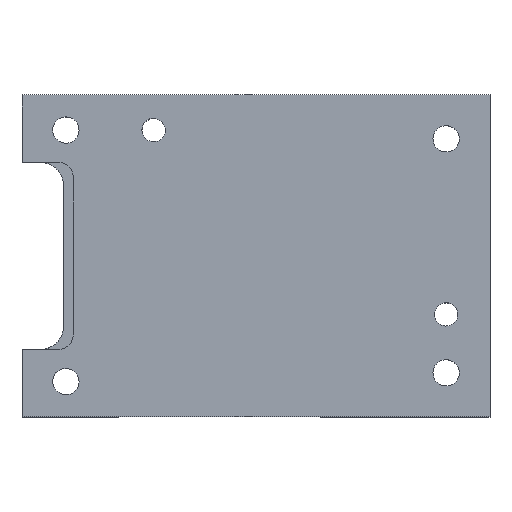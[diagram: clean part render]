
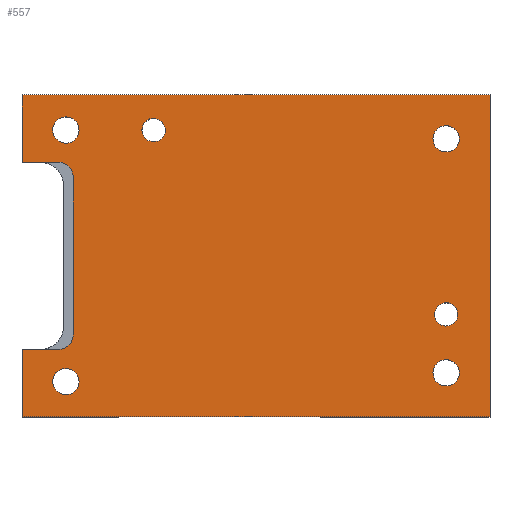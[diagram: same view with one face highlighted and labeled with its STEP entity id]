
A CAD part, top view. The second image highlights one B-rep face of the part: STEP entity #557.
In plain terms, the highlighted planar face has unit normal (0, 0, 1).
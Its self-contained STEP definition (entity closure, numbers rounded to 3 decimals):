
#47=AXIS2_PLACEMENT_3D('Circle Axis2P3D',#45,#46,$) ;
#365=AXIS2_PLACEMENT_3D('Circle Axis2P3D',#363,#364,$) ;
#379=AXIS2_PLACEMENT_3D('Plane Axis2P3D',#376,#377,#378) ;
#427=AXIS2_PLACEMENT_3D('Circle Axis2P3D',#425,#426,$) ;
#441=AXIS2_PLACEMENT_3D('Circle Axis2P3D',#439,#440,$) ;
#465=AXIS2_PLACEMENT_3D('Circle Axis2P3D',#463,#464,$) ;
#474=AXIS2_PLACEMENT_3D('Circle Axis2P3D',#472,#473,$) ;
#487=AXIS2_PLACEMENT_3D('Circle Axis2P3D',#485,#486,$) ;
#496=AXIS2_PLACEMENT_3D('Circle Axis2P3D',#494,#495,$) ;
#505=AXIS2_PLACEMENT_3D('Circle Axis2P3D',#503,#504,$) ;
#514=AXIS2_PLACEMENT_3D('Circle Axis2P3D',#512,#513,$) ;
#523=AXIS2_PLACEMENT_3D('Circle Axis2P3D',#521,#522,$) ;
#532=AXIS2_PLACEMENT_3D('Circle Axis2P3D',#530,#531,$) ;
#541=AXIS2_PLACEMENT_3D('Circle Axis2P3D',#539,#540,$) ;
#550=AXIS2_PLACEMENT_3D('Circle Axis2P3D',#548,#549,$) ;
#40=CARTESIAN_POINT('Vertex',(141.49,-21.918,45.)) ;
#45=CARTESIAN_POINT('Axis2P3D Location',(145.,-20.,45.)) ;
#49=CARTESIAN_POINT('Vertex',(148.51,-18.082,45.)) ;
#363=CARTESIAN_POINT('Axis2P3D Location',(145.,-20.,45.)) ;
#376=CARTESIAN_POINT('Axis2P3D Location',(0.,0.,45.)) ;
#381=CARTESIAN_POINT('Line Origine',(0.,-43.5,45.)) ;
#385=CARTESIAN_POINT('Vertex',(0.,-32.,45.)) ;
#387=CARTESIAN_POINT('Vertex',(0.,-55.,45.)) ;
#390=CARTESIAN_POINT('Line Origine',(80.,-55.,45.)) ;
#394=CARTESIAN_POINT('Vertex',(160.,-55.,45.)) ;
#397=CARTESIAN_POINT('Line Origine',(160.,0.,45.)) ;
#401=CARTESIAN_POINT('Vertex',(160.,55.,45.)) ;
#404=CARTESIAN_POINT('Line Origine',(80.,55.,45.)) ;
#408=CARTESIAN_POINT('Vertex',(0.,55.,45.)) ;
#411=CARTESIAN_POINT('Line Origine',(0.,43.5,45.)) ;
#415=CARTESIAN_POINT('Vertex',(0.,32.,45.)) ;
#418=CARTESIAN_POINT('Line Origine',(6.25,32.,45.)) ;
#422=CARTESIAN_POINT('Vertex',(12.5,32.,45.)) ;
#425=CARTESIAN_POINT('Axis2P3D Location',(12.5,27.,45.)) ;
#429=CARTESIAN_POINT('Vertex',(17.5,27.,45.)) ;
#432=CARTESIAN_POINT('Line Origine',(17.5,0.,45.)) ;
#436=CARTESIAN_POINT('Vertex',(17.5,-27.,45.)) ;
#439=CARTESIAN_POINT('Axis2P3D Location',(12.5,-27.,45.)) ;
#443=CARTESIAN_POINT('Vertex',(12.5,-32.,45.)) ;
#446=CARTESIAN_POINT('Line Origine',(6.25,-32.,45.)) ;
#463=CARTESIAN_POINT('Axis2P3D Location',(45.,43.,45.)) ;
#467=CARTESIAN_POINT('Vertex',(41.49,41.082,45.)) ;
#469=CARTESIAN_POINT('Vertex',(48.51,44.918,45.)) ;
#472=CARTESIAN_POINT('Axis2P3D Location',(45.,43.,45.)) ;
#485=CARTESIAN_POINT('Axis2P3D Location',(15.,43.,45.)) ;
#489=CARTESIAN_POINT('Vertex',(18.949,45.157,45.)) ;
#491=CARTESIAN_POINT('Vertex',(11.051,40.843,45.)) ;
#494=CARTESIAN_POINT('Axis2P3D Location',(15.,43.,45.)) ;
#503=CARTESIAN_POINT('Axis2P3D Location',(15.,-43.,45.)) ;
#507=CARTESIAN_POINT('Vertex',(11.051,-45.157,45.)) ;
#509=CARTESIAN_POINT('Vertex',(18.949,-40.843,45.)) ;
#512=CARTESIAN_POINT('Axis2P3D Location',(15.,-43.,45.)) ;
#521=CARTESIAN_POINT('Axis2P3D Location',(145.,-40.,45.)) ;
#525=CARTESIAN_POINT('Vertex',(141.051,-42.157,45.)) ;
#527=CARTESIAN_POINT('Vertex',(148.949,-37.843,45.)) ;
#530=CARTESIAN_POINT('Axis2P3D Location',(145.,-40.,45.)) ;
#539=CARTESIAN_POINT('Axis2P3D Location',(145.,40.,45.)) ;
#543=CARTESIAN_POINT('Vertex',(141.051,37.843,45.)) ;
#545=CARTESIAN_POINT('Vertex',(148.949,42.157,45.)) ;
#548=CARTESIAN_POINT('Axis2P3D Location',(145.,40.,45.)) ;
#46=DIRECTION('Axis2P3D Direction',(0.,-0.,1.)) ;
#364=DIRECTION('Axis2P3D Direction',(0.,-0.,1.)) ;
#377=DIRECTION('Axis2P3D Direction',(0.,0.,1.)) ;
#378=DIRECTION('Axis2P3D XDirection',(1.,0.,0.)) ;
#382=DIRECTION('Vector Direction',(0.,-1.,0.)) ;
#391=DIRECTION('Vector Direction',(1.,0.,0.)) ;
#398=DIRECTION('Vector Direction',(0.,1.,0.)) ;
#405=DIRECTION('Vector Direction',(-1.,0.,0.)) ;
#412=DIRECTION('Vector Direction',(0.,-1.,0.)) ;
#419=DIRECTION('Vector Direction',(1.,0.,0.)) ;
#426=DIRECTION('Axis2P3D Direction',(0.,0.,1.)) ;
#433=DIRECTION('Vector Direction',(0.,-1.,0.)) ;
#440=DIRECTION('Axis2P3D Direction',(0.,0.,1.)) ;
#447=DIRECTION('Vector Direction',(-1.,0.,0.)) ;
#464=DIRECTION('Axis2P3D Direction',(0.,0.,1.)) ;
#473=DIRECTION('Axis2P3D Direction',(0.,0.,1.)) ;
#486=DIRECTION('Axis2P3D Direction',(0.,0.,1.)) ;
#495=DIRECTION('Axis2P3D Direction',(0.,0.,1.)) ;
#504=DIRECTION('Axis2P3D Direction',(0.,0.,1.)) ;
#513=DIRECTION('Axis2P3D Direction',(0.,0.,1.)) ;
#522=DIRECTION('Axis2P3D Direction',(0.,0.,1.)) ;
#531=DIRECTION('Axis2P3D Direction',(0.,0.,1.)) ;
#540=DIRECTION('Axis2P3D Direction',(0.,0.,1.)) ;
#549=DIRECTION('Axis2P3D Direction',(0.,0.,1.)) ;
#383=VECTOR('Line Direction',#382,1.) ;
#392=VECTOR('Line Direction',#391,1.) ;
#399=VECTOR('Line Direction',#398,1.) ;
#406=VECTOR('Line Direction',#405,1.) ;
#413=VECTOR('Line Direction',#412,1.) ;
#420=VECTOR('Line Direction',#419,1.) ;
#434=VECTOR('Line Direction',#433,1.) ;
#448=VECTOR('Line Direction',#447,1.) ;
#452=ORIENTED_EDGE('',*,*,#389,.T.) ;
#453=ORIENTED_EDGE('',*,*,#396,.T.) ;
#454=ORIENTED_EDGE('',*,*,#403,.T.) ;
#455=ORIENTED_EDGE('',*,*,#410,.T.) ;
#456=ORIENTED_EDGE('',*,*,#417,.T.) ;
#457=ORIENTED_EDGE('',*,*,#424,.F.) ;
#458=ORIENTED_EDGE('',*,*,#431,.F.) ;
#459=ORIENTED_EDGE('',*,*,#438,.F.) ;
#460=ORIENTED_EDGE('',*,*,#445,.F.) ;
#461=ORIENTED_EDGE('',*,*,#450,.F.) ;
#478=ORIENTED_EDGE('',*,*,#471,.F.) ;
#479=ORIENTED_EDGE('',*,*,#476,.F.) ;
#482=ORIENTED_EDGE('',*,*,#367,.F.) ;
#483=ORIENTED_EDGE('',*,*,#51,.F.) ;
#500=ORIENTED_EDGE('',*,*,#493,.F.) ;
#501=ORIENTED_EDGE('',*,*,#498,.F.) ;
#518=ORIENTED_EDGE('',*,*,#511,.F.) ;
#519=ORIENTED_EDGE('',*,*,#516,.F.) ;
#536=ORIENTED_EDGE('',*,*,#529,.F.) ;
#537=ORIENTED_EDGE('',*,*,#534,.F.) ;
#554=ORIENTED_EDGE('',*,*,#547,.F.) ;
#555=ORIENTED_EDGE('',*,*,#552,.F.) ;
#480=FACE_BOUND('',#477,.T.) ;
#484=FACE_BOUND('',#481,.T.) ;
#502=FACE_BOUND('',#499,.T.) ;
#520=FACE_BOUND('',#517,.T.) ;
#538=FACE_BOUND('',#535,.T.) ;
#556=FACE_BOUND('',#553,.T.) ;
#557=ADVANCED_FACE('Body.4',(#462,#480,#484,#502,#520,#538,#556),#380,.T.) ;
#48=CIRCLE('generated circle',#47,4.) ;
#366=CIRCLE('generated circle',#365,4.) ;
#428=CIRCLE('generated circle',#427,5.) ;
#442=CIRCLE('generated circle',#441,5.) ;
#466=CIRCLE('generated circle',#465,4.) ;
#475=CIRCLE('generated circle',#474,4.) ;
#488=CIRCLE('generated circle',#487,4.5) ;
#497=CIRCLE('generated circle',#496,4.5) ;
#506=CIRCLE('generated circle',#505,4.5) ;
#515=CIRCLE('generated circle',#514,4.5) ;
#524=CIRCLE('generated circle',#523,4.5) ;
#533=CIRCLE('generated circle',#532,4.5) ;
#542=CIRCLE('generated circle',#541,4.5) ;
#551=CIRCLE('generated circle',#550,4.5) ;
#51=EDGE_CURVE('',#41,#50,#48,.T.) ;
#367=EDGE_CURVE('',#50,#41,#366,.T.) ;
#389=EDGE_CURVE('',#386,#388,#384,.T.) ;
#396=EDGE_CURVE('',#388,#395,#393,.T.) ;
#403=EDGE_CURVE('',#395,#402,#400,.T.) ;
#410=EDGE_CURVE('',#402,#409,#407,.T.) ;
#417=EDGE_CURVE('',#409,#416,#414,.T.) ;
#424=EDGE_CURVE('',#423,#416,#421,.F.) ;
#431=EDGE_CURVE('',#430,#423,#428,.T.) ;
#438=EDGE_CURVE('',#437,#430,#435,.F.) ;
#445=EDGE_CURVE('',#444,#437,#442,.T.) ;
#450=EDGE_CURVE('',#386,#444,#449,.F.) ;
#471=EDGE_CURVE('',#468,#470,#466,.T.) ;
#476=EDGE_CURVE('',#470,#468,#475,.T.) ;
#493=EDGE_CURVE('',#490,#492,#488,.T.) ;
#498=EDGE_CURVE('',#492,#490,#497,.T.) ;
#511=EDGE_CURVE('',#508,#510,#506,.T.) ;
#516=EDGE_CURVE('',#510,#508,#515,.T.) ;
#529=EDGE_CURVE('',#526,#528,#524,.T.) ;
#534=EDGE_CURVE('',#528,#526,#533,.T.) ;
#547=EDGE_CURVE('',#544,#546,#542,.T.) ;
#552=EDGE_CURVE('',#546,#544,#551,.T.) ;
#451=EDGE_LOOP('',(#452,#453,#454,#455,#456,#457,#458,#459,#460,#461)) ;
#477=EDGE_LOOP('',(#478,#479)) ;
#481=EDGE_LOOP('',(#482,#483)) ;
#499=EDGE_LOOP('',(#500,#501)) ;
#517=EDGE_LOOP('',(#518,#519)) ;
#535=EDGE_LOOP('',(#536,#537)) ;
#553=EDGE_LOOP('',(#554,#555)) ;
#462=FACE_OUTER_BOUND('',#451,.T.) ;
#384=LINE('Line',#381,#383) ;
#393=LINE('Line',#390,#392) ;
#400=LINE('Line',#397,#399) ;
#407=LINE('Line',#404,#406) ;
#414=LINE('Line',#411,#413) ;
#421=LINE('Line',#418,#420) ;
#435=LINE('Line',#432,#434) ;
#449=LINE('Line',#446,#448) ;
#380=PLANE('',#379) ;
#41=VERTEX_POINT('',#40) ;
#50=VERTEX_POINT('',#49) ;
#386=VERTEX_POINT('',#385) ;
#388=VERTEX_POINT('',#387) ;
#395=VERTEX_POINT('',#394) ;
#402=VERTEX_POINT('',#401) ;
#409=VERTEX_POINT('',#408) ;
#416=VERTEX_POINT('',#415) ;
#423=VERTEX_POINT('',#422) ;
#430=VERTEX_POINT('',#429) ;
#437=VERTEX_POINT('',#436) ;
#444=VERTEX_POINT('',#443) ;
#468=VERTEX_POINT('',#467) ;
#470=VERTEX_POINT('',#469) ;
#490=VERTEX_POINT('',#489) ;
#492=VERTEX_POINT('',#491) ;
#508=VERTEX_POINT('',#507) ;
#510=VERTEX_POINT('',#509) ;
#526=VERTEX_POINT('',#525) ;
#528=VERTEX_POINT('',#527) ;
#544=VERTEX_POINT('',#543) ;
#546=VERTEX_POINT('',#545) ;
